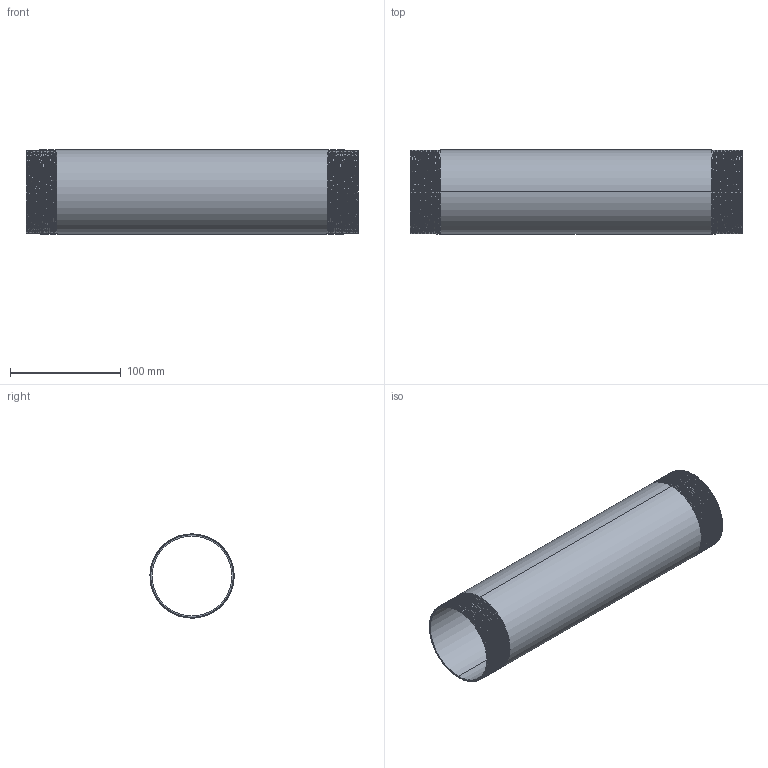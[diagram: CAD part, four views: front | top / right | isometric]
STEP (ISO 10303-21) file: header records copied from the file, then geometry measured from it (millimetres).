
FILE_DESCRIPTION (( 'STEP AP203' ), '1' );
FILE_NAME ('3D_R210_2 1-2x300_17148645.STEP', '2024-08-16T10:18:17', ( '' ), ( '' ), 'SwSTEP 2.0', 'SolidWorks 2024', '' );
FILE_SCHEMA (( 'CONFIG_CONTROL_DESIGN' ));
Length unit declared in the file: millimetre
Products named in the file (1): 3D_R210_2 1-2x300_17148645
Bounding box: 300 x 76.02 x 76.1 mm (x, y, z)
Volume: 134034.4 mm3; surface area: 147239.7 mm2
Topology: 1 solids, 1 shells, 106 faces, 306 edges, 202 vertices
Faces by surface type: cone 92, bspline 6, cylinder 4, plane 4
Entity records: 20059 total; most frequent: CARTESIAN_POINT 17595, ORIENTED_EDGE 612, DIRECTION 328, EDGE_CURVE 306, VERTEX_POINT 202, B_SPLINE_CURVE_WITH_KNOTS 184, AXIS2_PLACEMENT_3D 113, EDGE_LOOP 108
